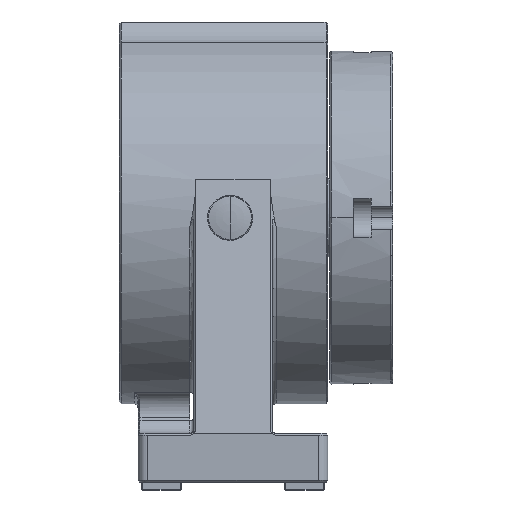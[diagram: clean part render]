
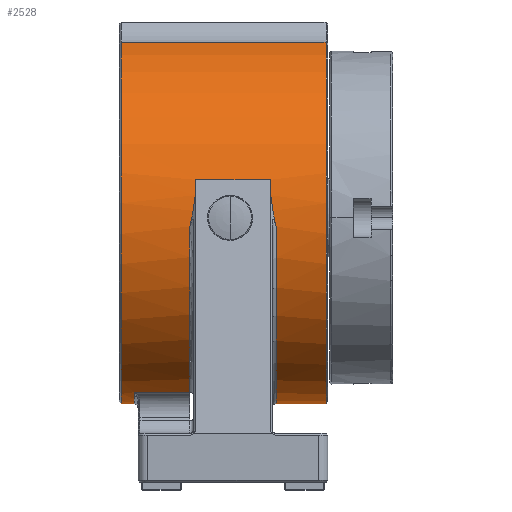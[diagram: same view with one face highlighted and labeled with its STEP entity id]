
A CAD part, left-side view. The second image highlights one B-rep face of the part: STEP entity #2528.
In plain terms, the highlighted cylindrical face has radius 95 mm (diameter 190 mm), a partial arc.
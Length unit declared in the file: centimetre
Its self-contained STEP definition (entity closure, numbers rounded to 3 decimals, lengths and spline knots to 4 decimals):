
#872 = CARTESIAN_POINT ( 'NONE',  ( 1.2124, 5.2855, 25.75 ) ) ;
#930 = VERTEX_POINT ( 'NONE', #18214 ) ;
#1353 = CARTESIAN_POINT ( 'NONE',  ( -2.0851, 5.2855, 16.8406 ) ) ;
#1786 = VECTOR ( 'NONE', #17732, 100. ) ;
#1944 = CARTESIAN_POINT ( 'NONE',  ( 1.2124, 5.2855, 16.25 ) ) ;
#1989 = CARTESIAN_POINT ( 'NONE',  ( 1.2124, -2.7145, 25.75 ) ) ;
#2226 = CARTESIAN_POINT ( 'NONE',  ( -8.2507, -2.4145, 26.9074 ) ) ;
#2528 = ADVANCED_FACE ( 'NONE', ( #14024 ), #8718, .T. ) ;
#2538 = VECTOR ( 'NONE', #3895, 100. ) ;
#2766 = CARTESIAN_POINT ( 'NONE',  ( -8.0873, -2.4145, 27.6906 ) ) ;
#2858 = EDGE_CURVE ( 'NONE', #13854, #8630, #6286, .T. ) ;
#2998 = CARTESIAN_POINT ( 'NONE',  ( 1.2124, -2.7145, 16.25 ) ) ;
#3004 = VERTEX_POINT ( 'NONE', #5883 ) ;
#3314 = VECTOR ( 'NONE', #12623, 100. ) ;
#3707 = DIRECTION ( 'NONE',  ( 0., 1., 0. ) ) ;
#3744 = EDGE_CURVE ( 'NONE', #8630, #13521, #13325, .T. ) ;
#3751 = CARTESIAN_POINT ( 'NONE',  ( -8.3144, -2.515, 26.1099 ) ) ;
#3814 = DIRECTION ( 'NONE',  ( 0., -1., 0. ) ) ;
#3840 = ORIENTED_EDGE ( 'NONE', *, *, #15788, .T. ) ;
#3892 = DIRECTION ( 'NONE',  ( 0., 0., -1. ) ) ;
#3895 = DIRECTION ( 'NONE',  ( 0., -1., 0. ) ) ;
#3959 = DIRECTION ( 'NONE',  ( 1., 0., 0. ) ) ;
#4837 = CARTESIAN_POINT ( 'NONE',  ( -8.2774, -2.7145, 25.3107 ) ) ;
#4858 = CARTESIAN_POINT ( 'NONE',  ( -1.9351, -5.2645, 34.7134 ) ) ;
#4960 =( BOUNDED_CURVE ( )  B_SPLINE_CURVE ( 3, ( #14770, #11921, #17501, #9199 ),
 .UNSPECIFIED., .F., .T. ) 
 B_SPLINE_CURVE_WITH_KNOTS ( ( 4, 4 ),
 ( 6.0312, 6.2832 ),
 .UNSPECIFIED. ) 
 CURVE ( )  GEOMETRIC_REPRESENTATION_ITEM ( )  RATIONAL_B_SPLINE_CURVE ( ( 1., 0.995, 0.995, 1. ) ) 
 REPRESENTATION_ITEM ( '' )  );
#5150 = ORIENTED_EDGE ( 'NONE', *, *, #12037, .T. ) ;
#5308 = VERTEX_POINT ( 'NONE', #13421 ) ;
#5464 = CARTESIAN_POINT ( 'NONE',  ( -8.0873, 14.7048, 27.6906 ) ) ;
#5509 = EDGE_CURVE ( 'NONE', #6136, #930, #11944, .T. ) ;
#5731 = VERTEX_POINT ( 'NONE', #2766 ) ;
#5748 = VERTEX_POINT ( 'NONE', #15488 ) ;
#5883 = CARTESIAN_POINT ( 'NONE',  ( -2.0851, 1.6855, 16.8406 ) ) ;
#6136 = VERTEX_POINT ( 'NONE', #18228 ) ;
#6284 = ORIENTED_EDGE ( 'NONE', *, *, #8485, .T. ) ;
#6286 = LINE ( 'NONE', #12347, #2538 ) ;
#6383 = CIRCLE ( 'NONE', #17169, 9.5 ) ;
#6582 = CARTESIAN_POINT ( 'NONE',  ( -2.0851, 4.5355, 16.8406 ) ) ;
#6604 = ORIENTED_EDGE ( 'NONE', *, *, #9789, .T. ) ;
#6734 = ORIENTED_EDGE ( 'NONE', *, *, #3744, .T. ) ;
#6919 = CIRCLE ( 'NONE', #15065, 9.5 ) ;
#6945 = EDGE_CURVE ( 'NONE', #930, #8362, #6919, .T. ) ;
#7237 = ORIENTED_EDGE ( 'NONE', *, *, #11330, .T. ) ;
#7365 = AXIS2_PLACEMENT_3D ( 'NONE', #1989, #8985, #11897 ) ;
#7852 = CARTESIAN_POINT ( 'NONE',  ( -8.0873, -2.4145, 27.6906 ) ) ;
#7993 = LINE ( 'NONE', #15265, #1786 ) ;
#8083 = CARTESIAN_POINT ( 'NONE',  ( 1.2124, 5.1855, 25.75 ) ) ;
#8146 = DIRECTION ( 'NONE',  ( 0., 0., -1. ) ) ;
#8149 = VERTEX_POINT ( 'NONE', #17642 ) ;
#8174 = CIRCLE ( 'NONE', #9457, 9.5 ) ;
#8362 = VERTEX_POINT ( 'NONE', #6582 ) ;
#8485 = EDGE_CURVE ( 'NONE', #13521, #8149, #7993, .T. ) ;
#8600 = LINE ( 'NONE', #5464, #3314 ) ;
#8630 = VERTEX_POINT ( 'NONE', #15505 ) ;
#8718 = CYLINDRICAL_SURFACE ( 'NONE', #11496, 9.5 ) ;
#8985 = DIRECTION ( 'NONE',  ( 0., -1., 0. ) ) ;
#9123 = ORIENTED_EDGE ( 'NONE', *, *, #15483, .T. ) ;
#9199 = CARTESIAN_POINT ( 'NONE',  ( -8.0873, 1.3855, 27.6906 ) ) ;
#9351 = EDGE_CURVE ( 'NONE', #8362, #3004, #13488, .T. ) ;
#9442 = CARTESIAN_POINT ( 'NONE',  ( 1.2124, 1.6855, 25.75 ) ) ;
#9457 = AXIS2_PLACEMENT_3D ( 'NONE', #9442, #10995, #3959 ) ;
#9789 = EDGE_CURVE ( 'NONE', #3004, #5308, #8174, .T. ) ;
#9990 = ORIENTED_EDGE ( 'NONE', *, *, #6945, .T. ) ;
#10108 = DIRECTION ( 'NONE',  ( 0., 1., 0. ) ) ;
#10995 = DIRECTION ( 'NONE',  ( 0., 1., 0. ) ) ;
#11130 = CARTESIAN_POINT ( 'NONE',  ( -8.2774, -2.7145, 25.3107 ) ) ;
#11330 = EDGE_CURVE ( 'NONE', #5308, #5748, #4960, .T. ) ;
#11420 = CARTESIAN_POINT ( 'NONE',  ( 1.2124, 4.5355, 25.75 ) ) ;
#11496 = AXIS2_PLACEMENT_3D ( 'NONE', #872, #3814, #14983 ) ;
#11506 = ORIENTED_EDGE ( 'NONE', *, *, #5509, .T. ) ;
#11703 = VECTOR ( 'NONE', #17962, 100. ) ;
#11897 = DIRECTION ( 'NONE',  ( -1., 0., 0. ) ) ;
#11921 = CARTESIAN_POINT ( 'NONE',  ( -8.3144, 1.486, 26.1099 ) ) ;
#11944 = LINE ( 'NONE', #1944, #11703 ) ;
#12037 = EDGE_CURVE ( 'NONE', #14565, #13854, #12960, .T. ) ;
#12083 =( BOUNDED_CURVE ( )  B_SPLINE_CURVE ( 3, ( #7852, #2226, #3751, #4837 ),
 .UNSPECIFIED., .F., .F. ) 
 B_SPLINE_CURVE_WITH_KNOTS ( ( 4, 4 ),
 ( 3.1416, 3.3936 ),
 .UNSPECIFIED. ) 
 CURVE ( )  GEOMETRIC_REPRESENTATION_ITEM ( )  RATIONAL_B_SPLINE_CURVE ( ( 1., 0.995, 0.995, 1. ) ) 
 REPRESENTATION_ITEM ( '' )  );
#12347 = CARTESIAN_POINT ( 'NONE',  ( 1.2124, 5.2855, 16.25 ) ) ;
#12618 = VECTOR ( 'NONE', #15456, 100. ) ;
#12623 = DIRECTION ( 'NONE',  ( 0., -1., 0. ) ) ;
#12956 = ORIENTED_EDGE ( 'NONE', *, *, #16197, .T. ) ;
#12960 = CIRCLE ( 'NONE', #7365, 9.5 ) ;
#13325 = CIRCLE ( 'NONE', #15254, 9.5 ) ;
#13421 = CARTESIAN_POINT ( 'NONE',  ( -8.2774, 1.6855, 25.3107 ) ) ;
#13488 = LINE ( 'NONE', #1353, #12618 ) ;
#13521 = VERTEX_POINT ( 'NONE', #4858 ) ;
#13675 = CARTESIAN_POINT ( 'NONE',  ( 1.2124, -5.2645, 25.75 ) ) ;
#13854 = VERTEX_POINT ( 'NONE', #2998 ) ;
#14024 = FACE_OUTER_BOUND ( 'NONE', #14563, .T. ) ;
#14563 = EDGE_LOOP ( 'NONE', ( #12956, #11506, #9990, #16970, #6604, #7237, #3840, #9123, #5150, #17404, #6734, #6284 ) ) ;
#14565 = VERTEX_POINT ( 'NONE', #11130 ) ;
#14770 = CARTESIAN_POINT ( 'NONE',  ( -8.2774, 1.6855, 25.3107 ) ) ;
#14983 = DIRECTION ( 'NONE',  ( 0., 0., -1. ) ) ;
#15065 = AXIS2_PLACEMENT_3D ( 'NONE', #11420, #10108, #15930 ) ;
#15254 = AXIS2_PLACEMENT_3D ( 'NONE', #13675, #3707, #3892 ) ;
#15265 = CARTESIAN_POINT ( 'NONE',  ( -1.9351, 5.2855, 34.7134 ) ) ;
#15456 = DIRECTION ( 'NONE',  ( 0., -1., 0. ) ) ;
#15483 = EDGE_CURVE ( 'NONE', #5731, #14565, #12083, .T. ) ;
#15488 = CARTESIAN_POINT ( 'NONE',  ( -8.0873, 1.3855, 27.6906 ) ) ;
#15505 = CARTESIAN_POINT ( 'NONE',  ( 1.2124, -5.2645, 16.25 ) ) ;
#15788 = EDGE_CURVE ( 'NONE', #5748, #5731, #8600, .T. ) ;
#15930 = DIRECTION ( 'NONE',  ( 0., 0., -1. ) ) ;
#16197 = EDGE_CURVE ( 'NONE', #8149, #6136, #6383, .T. ) ;
#16644 = DIRECTION ( 'NONE',  ( 0., -1., 0. ) ) ;
#16970 = ORIENTED_EDGE ( 'NONE', *, *, #9351, .T. ) ;
#17169 = AXIS2_PLACEMENT_3D ( 'NONE', #8083, #16644, #8146 ) ;
#17404 = ORIENTED_EDGE ( 'NONE', *, *, #2858, .T. ) ;
#17501 = CARTESIAN_POINT ( 'NONE',  ( -8.2507, 1.3855, 26.9074 ) ) ;
#17642 = CARTESIAN_POINT ( 'NONE',  ( -1.9351, 5.1855, 34.7134 ) ) ;
#17732 = DIRECTION ( 'NONE',  ( 0., 1., 0. ) ) ;
#17962 = DIRECTION ( 'NONE',  ( 0., -1., 0. ) ) ;
#18214 = CARTESIAN_POINT ( 'NONE',  ( 1.2124, 4.5355, 16.25 ) ) ;
#18228 = CARTESIAN_POINT ( 'NONE',  ( 1.2124, 5.1855, 16.25 ) ) ;
